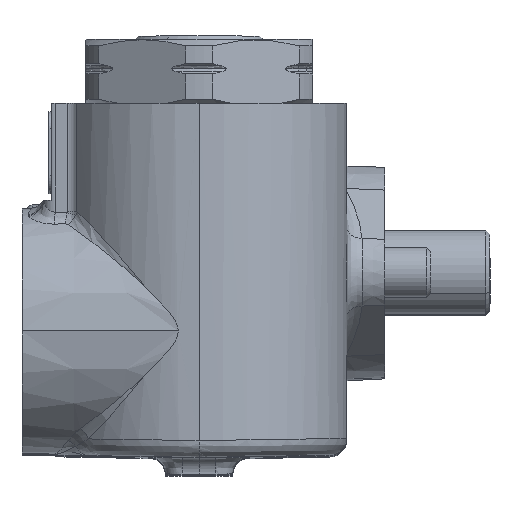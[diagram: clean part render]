
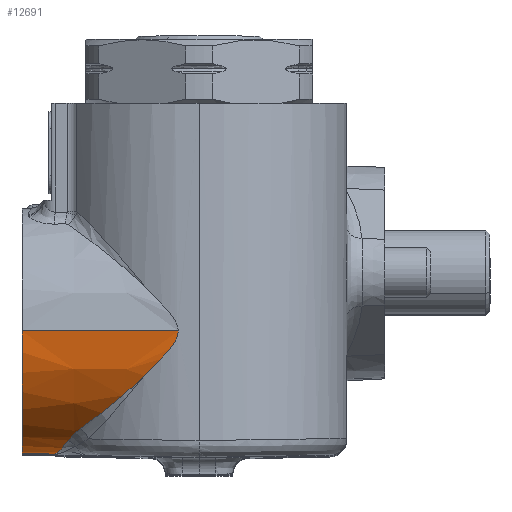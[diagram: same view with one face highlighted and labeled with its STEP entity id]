
A CAD part, top view. The second image highlights one B-rep face of the part: STEP entity #12691.
In plain terms, the highlighted conical face has half-angle 1 degrees and reference radius 14.5 mm.
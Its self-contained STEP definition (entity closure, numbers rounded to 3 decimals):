
#490 = CARTESIAN_POINT ( 'NONE',  ( -8.672, -19.06, 64.76 ) ) ;
#910 = CARTESIAN_POINT ( 'NONE',  ( 2.228, -9.501, 71.09 ) ) ;
#1205 = B_SPLINE_CURVE_WITH_KNOTS ( 'NONE', 3,
 ( #5151, #19599, #44144, #41299, #26428, #33496, #8462, #19363, #1340, #44599 ),
 .UNSPECIFIED., .F., .F.,
 ( 4, 2, 2, 2, 4 ),
 ( 0., 0.003, 0.006, 0.008, 0.011 ),
 .UNSPECIFIED. ) ;
#1340 = CARTESIAN_POINT ( 'NONE',  ( -1.107, -12.947, 70.006 ) ) ;
#1725 = ORIENTED_EDGE ( 'NONE', *, *, #34813, .T. ) ;
#1950 = EDGE_LOOP ( 'NONE', ( #6073, #10509, #19705, #28212, #25968, #1725, #20686 ) ) ;
#1978 = EDGE_CURVE ( 'NONE', #29666, #4280, #30480, .T. ) ;
#2157 = DIRECTION ( 'NONE',  ( 0., 0., -1. ) ) ;
#2771 = AXIS2_PLACEMENT_3D ( 'NONE', #11435, #39553, #25606 ) ;
#2792 = CARTESIAN_POINT ( 'NONE',  ( -9.52, -19.989, 63.157 ) ) ;
#2828 = B_SPLINE_CURVE_WITH_KNOTS ( 'NONE', 3,
 ( #31963, #32888, #32422, #490, #21575, #22284 ),
 .UNSPECIFIED., .F., .F.,
 ( 4, 2, 4 ),
 ( 0., 0.002, 0.003 ),
 .UNSPECIFIED. ) ;
#3709 = CARTESIAN_POINT ( 'NONE',  ( 3.519, -7., 71.323 ) ) ;
#4186 = DIRECTION ( 'NONE',  ( -1., 0.017, 0. ) ) ;
#4280 = VERTEX_POINT ( 'NONE', #37568 ) ;
#4330 = CARTESIAN_POINT ( 'NONE',  ( -9.52, -19.989, 63.157 ) ) ;
#5151 = CARTESIAN_POINT ( 'NONE',  ( -8.055, -18.576, 65.432 ) ) ;
#5479 = EDGE_CURVE ( 'NONE', #25389, #10603, #18396, .T. ) ;
#6073 = ORIENTED_EDGE ( 'NONE', *, *, #36833, .F. ) ;
#6573 = CARTESIAN_POINT ( 'NONE',  ( -15., -7., 71. ) ) ;
#8042 = CARTESIAN_POINT ( 'NONE',  ( 3.225, -8.108, 71.279 ) ) ;
#8462 = CARTESIAN_POINT ( 'NONE',  ( -3.048, -14.656, 69.076 ) ) ;
#9890 = B_SPLINE_CURVE_WITH_KNOTS ( 'NONE', 3,
 ( #29363, #26074, #43805, #14764, #10966, #21825, #40491, #18066, #25844, #4330 ),
 .UNSPECIFIED., .F., .F.,
 ( 4, 2, 2, 2, 4 ),
 ( 0., 0.002, 0.004, 0.005, 0.007 ),
 .UNSPECIFIED. ) ;
#10509 = ORIENTED_EDGE ( 'NONE', *, *, #46445, .T. ) ;
#10603 = VERTEX_POINT ( 'NONE', #42980 ) ;
#10966 = CARTESIAN_POINT ( 'NONE',  ( -10.678, -21.297, 59.395 ) ) ;
#11129 = CARTESIAN_POINT ( 'NONE',  ( 2.043, -9.715, 71.048 ) ) ;
#11261 = VERTEX_POINT ( 'NONE', #2792 ) ;
#11435 = CARTESIAN_POINT ( 'NONE',  ( -15., -7., 56.5 ) ) ;
#12079 = CARTESIAN_POINT ( 'NONE',  ( 2.76, -8.831, 71.198 ) ) ;
#12691 = ADVANCED_FACE ( 'NONE', ( #25155 ), #23188, .T. ) ;
#14764 = CARTESIAN_POINT ( 'NONE',  ( -10.798, -21.398, 58.826 ) ) ;
#15388 = CARTESIAN_POINT ( 'NONE',  ( 1.48, -10.346, 70.91 ) ) ;
#17828 = AXIS2_PLACEMENT_3D ( 'NONE', #19938, #45647, #2157 ) ;
#18066 = CARTESIAN_POINT ( 'NONE',  ( -9.89, -20.47, 62.134 ) ) ;
#18396 = LINE ( 'NONE', #32545, #22007 ) ;
#19363 = CARTESIAN_POINT ( 'NONE',  ( -1.754, -13.532, 69.72 ) ) ;
#19599 = CARTESIAN_POINT ( 'NONE',  ( -7.469, -18.149, 66.002 ) ) ;
#19705 = ORIENTED_EDGE ( 'NONE', *, *, #5479, .F. ) ;
#19938 = CARTESIAN_POINT ( 'NONE',  ( -15., -7., 56.5 ) ) ;
#20686 = ORIENTED_EDGE ( 'NONE', *, *, #1978, .F. ) ;
#21575 = CARTESIAN_POINT ( 'NONE',  ( -8.383, -18.815, 65.113 ) ) ;
#21825 = CARTESIAN_POINT ( 'NONE',  ( -10.396, -21.028, 60.517 ) ) ;
#22007 = VECTOR ( 'NONE', #4186, 1000. ) ;
#22235 = CARTESIAN_POINT ( 'NONE',  ( 2.586, -9.06, 71.165 ) ) ;
#22284 = CARTESIAN_POINT ( 'NONE',  ( -8.055, -18.576, 65.432 ) ) ;
#23188 = CONICAL_SURFACE ( 'NONE', #2771, 14.5, 0.017 ) ;
#23266 = VERTEX_POINT ( 'NONE', #37655 ) ;
#24323 = DIRECTION ( 'NONE',  ( 1., 0., 0.017 ) ) ;
#25155 = FACE_OUTER_BOUND ( 'NONE', #1950, .T. ) ;
#25389 = VERTEX_POINT ( 'NONE', #29436 ) ;
#25606 = DIRECTION ( 'NONE',  ( 0., 0., 1. ) ) ;
#25773 = CARTESIAN_POINT ( 'NONE',  ( 3.448, -7.576, 71.313 ) ) ;
#25844 = CARTESIAN_POINT ( 'NONE',  ( -9.704, -20.245, 62.651 ) ) ;
#25968 = ORIENTED_EDGE ( 'NONE', *, *, #42009, .T. ) ;
#26074 = CARTESIAN_POINT ( 'NONE',  ( -11.103, -21.568, 57.088 ) ) ;
#26428 = CARTESIAN_POINT ( 'NONE',  ( -4.98, -16.236, 67.923 ) ) ;
#26738 = CARTESIAN_POINT ( 'NONE',  ( -8.055, -18.576, 65.432 ) ) ;
#27854 = LINE ( 'NONE', #6573, #46470 ) ;
#28212 = ORIENTED_EDGE ( 'NONE', *, *, #31425, .T. ) ;
#29062 = CARTESIAN_POINT ( 'NONE',  ( 3.519, -7.29, 71.323 ) ) ;
#29363 = CARTESIAN_POINT ( 'NONE',  ( -11.198, -21.566, 56.5 ) ) ;
#29436 = CARTESIAN_POINT ( 'NONE',  ( -11.198, -21.566, 56.5 ) ) ;
#29666 = VERTEX_POINT ( 'NONE', #3709 ) ;
#30480 = B_SPLINE_CURVE_WITH_KNOTS ( 'NONE', 3,
 ( #36371, #29062, #25773, #8042, #43735, #12079, #22235, #910, #11129, #15388, #33311, #33771, #36610, #32844 ),
 .UNSPECIFIED., .F., .F.,
 ( 4, 2, 2, 2, 2, 2, 4 ),
 ( 0.023, 0.024, 0.025, 0.026, 0.026, 0.028, 0.03 ),
 .UNSPECIFIED. ) ;
#31425 = EDGE_CURVE ( 'NONE', #25389, #11261, #9890, .T. ) ;
#31963 = CARTESIAN_POINT ( 'NONE',  ( -9.52, -19.989, 63.157 ) ) ;
#32422 = CARTESIAN_POINT ( 'NONE',  ( -9.159, -19.535, 64.002 ) ) ;
#32545 = CARTESIAN_POINT ( 'NONE',  ( -17., -21.465, 56.5 ) ) ;
#32844 = CARTESIAN_POINT ( 'NONE',  ( -0.474, -12.326, 70.259 ) ) ;
#32888 = CARTESIAN_POINT ( 'NONE',  ( -9.36, -19.768, 63.595 ) ) ;
#33311 = CARTESIAN_POINT ( 'NONE',  ( 1.093, -10.752, 70.803 ) ) ;
#33496 = CARTESIAN_POINT ( 'NONE',  ( -3.695, -15.195, 68.718 ) ) ;
#33771 = CARTESIAN_POINT ( 'NONE',  ( 0.313, -11.549, 70.555 ) ) ;
#34813 = EDGE_CURVE ( 'NONE', #35677, #4280, #1205, .T. ) ;
#35677 = VERTEX_POINT ( 'NONE', #26738 ) ;
#36371 = CARTESIAN_POINT ( 'NONE',  ( 3.519, -7., 71.323 ) ) ;
#36610 = CARTESIAN_POINT ( 'NONE',  ( -0.08, -11.94, 70.415 ) ) ;
#36833 = EDGE_CURVE ( 'NONE', #23266, #29666, #27854, .T. ) ;
#37568 = CARTESIAN_POINT ( 'NONE',  ( -0.474, -12.326, 70.259 ) ) ;
#37655 = CARTESIAN_POINT ( 'NONE',  ( -15., -7., 71. ) ) ;
#38934 = CIRCLE ( 'NONE', #17828, 14.5 ) ;
#39553 = DIRECTION ( 'NONE',  ( 1., 0., 0. ) ) ;
#40491 = CARTESIAN_POINT ( 'NONE',  ( -10.236, -20.861, 61.068 ) ) ;
#41299 = CARTESIAN_POINT ( 'NONE',  ( -5.619, -16.739, 67.483 ) ) ;
#42009 = EDGE_CURVE ( 'NONE', #11261, #35677, #2828, .T. ) ;
#42980 = CARTESIAN_POINT ( 'NONE',  ( -15., -21.5, 56.5 ) ) ;
#43735 = CARTESIAN_POINT ( 'NONE',  ( 3.08, -8.355, 71.255 ) ) ;
#43805 = CARTESIAN_POINT ( 'NONE',  ( -11.01, -21.534, 57.672 ) ) ;
#44144 = CARTESIAN_POINT ( 'NONE',  ( -6.863, -17.695, 66.523 ) ) ;
#44599 = CARTESIAN_POINT ( 'NONE',  ( -0.474, -12.326, 70.259 ) ) ;
#45647 = DIRECTION ( 'NONE',  ( 1., 0., 0. ) ) ;
#46445 = EDGE_CURVE ( 'NONE', #23266, #10603, #38934, .T. ) ;
#46470 = VECTOR ( 'NONE', #24323, 1000. ) ;
